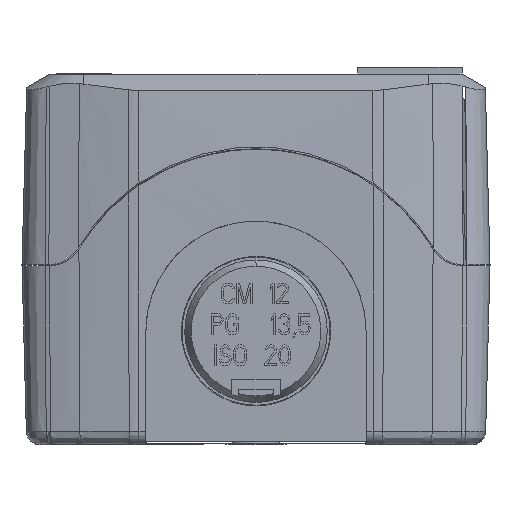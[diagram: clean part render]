
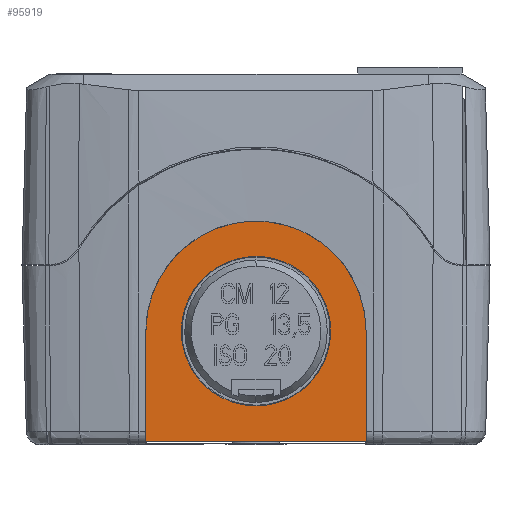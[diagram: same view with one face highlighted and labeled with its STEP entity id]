
A CAD part, front view. The second image highlights one B-rep face of the part: STEP entity #95919.
In plain terms, the highlighted planar face has unit normal (0, -1, -0.026).
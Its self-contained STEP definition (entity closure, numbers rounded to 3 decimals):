
#41331=DIRECTION('',(1.,0.,0.));
#41332=VECTOR('',#41331,0.111);
#41333=CARTESIAN_POINT('',(15.889,-94.268,-53.85));
#41334=LINE('',#41333,#41332);
#41847=DIRECTION('',(1.,0.,0.));
#41848=VECTOR('',#41847,0.111);
#41849=CARTESIAN_POINT('',(-16.,-94.268,-53.85));
#41850=LINE('',#41849,#41848);
#50500=DIRECTION('',(1.,0.,0.));
#50501=VECTOR('',#50500,6.889);
#50502=CARTESIAN_POINT('',(-15.889,-94.281,-53.35));
#50503=LINE('',#50502,#50501);
#50526=DIRECTION('',(1.,0.,0.));
#50527=VECTOR('',#50526,6.889);
#50528=CARTESIAN_POINT('',(9.,-94.281,-53.35));
#50529=LINE('',#50528,#50527);
#56601=CARTESIAN_POINT('',(-15.889,-94.281,-53.35));
#56602=CARTESIAN_POINT('',(-15.889,-94.277,
-53.517));
#56603=CARTESIAN_POINT('',(-15.889,-94.272,
-53.683));
#56604=CARTESIAN_POINT('',(-15.889,-94.268,-53.85));
#56606=CARTESIAN_POINT('',(-16.,-94.7,-37.356));
#56607=CARTESIAN_POINT('',(-16.,-94.728,-36.294));
#56608=CARTESIAN_POINT('',(-15.794,-94.782,
-34.215));
#56609=CARTESIAN_POINT('',(-14.878,-94.861,
-31.184));
#56610=CARTESIAN_POINT('',(-13.383,-94.935,
-28.395));
#56611=CARTESIAN_POINT('',(-11.4,-94.998,
-25.977));
#56612=CARTESIAN_POINT('',(-8.952,-95.051,
-23.963));
#56613=CARTESIAN_POINT('',(-6.16,-95.09,
-22.472));
#56614=CARTESIAN_POINT('',(-3.137,-95.114,
-21.556));
#56615=CARTESIAN_POINT('',(-0.003,-95.122,
-21.248));
#56616=CARTESIAN_POINT('',(3.127,-95.114,
-21.555));
#56617=CARTESIAN_POINT('',(6.139,-95.09,
-22.464));
#56618=CARTESIAN_POINT('',(8.92,-95.051,
-23.942));
#56619=CARTESIAN_POINT('',(11.367,-94.999,
-25.945));
#56620=CARTESIAN_POINT('',(13.359,-94.935,
-28.359));
#56621=CARTESIAN_POINT('',(14.867,-94.862,
-31.153));
#56622=CARTESIAN_POINT('',(15.792,-94.783,
-34.199));
#56623=CARTESIAN_POINT('',(16.,-94.728,-36.288));
#56624=CARTESIAN_POINT('',(16.,-94.7,-37.356));
#56626=DIRECTION('',(-0.002,-0.026,1.));
#56627=VECTOR('',#56626,0.5);
#56628=CARTESIAN_POINT('',(15.889,-94.268,-53.85));
#56629=LINE('',#56628,#56627);
#56630=DIRECTION('',(-1.,0.,0.));
#56631=VECTOR('',#56630,18.);
#56632=CARTESIAN_POINT('',(9.,-94.281,-53.35));
#56633=LINE('',#56632,#56631);
#56634=CARTESIAN_POINT('',(0.,-94.984,
-26.494));
#56635=CARTESIAN_POINT('',(-0.771,-94.984,
-26.494));
#56636=CARTESIAN_POINT('',(-2.274,-94.98,
-26.655));
#56637=CARTESIAN_POINT('',(-4.453,-94.962,
-27.362));
#56638=CARTESIAN_POINT('',(-6.433,-94.931,
-28.51));
#56639=CARTESIAN_POINT('',(-8.11,-94.892,
-30.018));
#56640=CARTESIAN_POINT('',(-9.459,-94.844,
-31.862));
#56641=CARTESIAN_POINT('',(-10.395,-94.789,
-33.953));
#56642=CARTESIAN_POINT('',(-10.874,-94.73,
-36.191));
#56643=CARTESIAN_POINT('',(-10.877,-94.671,
-38.476));
#56644=CARTESIAN_POINT('',(-10.406,-94.612,
-40.71));
#56645=CARTESIAN_POINT('',(-9.482,-94.557,
-42.797));
#56646=CARTESIAN_POINT('',(-8.143,-94.509,
-44.646));
#56647=CARTESIAN_POINT('',(-6.466,-94.469,
-46.167));
#56648=CARTESIAN_POINT('',(-4.477,-94.439,
-47.328));
#56649=CARTESIAN_POINT('',(-2.283,-94.42,
-48.043));
#56650=CARTESIAN_POINT('',(-0.774,-94.416,
-48.206));
#56651=CARTESIAN_POINT('',(0.,-94.416,
-48.206));
#56653=CARTESIAN_POINT('',(0.,-94.416,
-48.206));
#56654=CARTESIAN_POINT('',(0.771,-94.416,
-48.206));
#56655=CARTESIAN_POINT('',(2.274,-94.42,
-48.045));
#56656=CARTESIAN_POINT('',(4.453,-94.438,
-47.338));
#56657=CARTESIAN_POINT('',(6.433,-94.469,
-46.19));
#56658=CARTESIAN_POINT('',(8.11,-94.508,
-44.682));
#56659=CARTESIAN_POINT('',(9.459,-94.556,
-42.838));
#56660=CARTESIAN_POINT('',(10.395,-94.611,
-40.747));
#56661=CARTESIAN_POINT('',(10.874,-94.67,
-38.509));
#56662=CARTESIAN_POINT('',(10.877,-94.729,
-36.224));
#56663=CARTESIAN_POINT('',(10.406,-94.788,
-33.99));
#56664=CARTESIAN_POINT('',(9.482,-94.843,
-31.903));
#56665=CARTESIAN_POINT('',(8.143,-94.891,
-30.054));
#56666=CARTESIAN_POINT('',(6.466,-94.931,
-28.532));
#56667=CARTESIAN_POINT('',(4.477,-94.961,
-27.371));
#56668=CARTESIAN_POINT('',(2.283,-94.98,
-26.656));
#56669=CARTESIAN_POINT('',(0.774,-94.984,
-26.494));
#56670=CARTESIAN_POINT('',(0.,-94.984,
-26.494));
#60327=DIRECTION('',(0.,0.026,-1.));
#60328=VECTOR('',#60327,16.504);
#60329=CARTESIAN_POINT('',(-16.,-94.7,-37.352));
#60330=LINE('',#60329,#60328);
#60759=DIRECTION('',(0.,-0.026,1.));
#60760=VECTOR('',#60759,16.504);
#60761=CARTESIAN_POINT('',(16.,-94.268,-53.85));
#60762=LINE('',#60761,#60760);
#73021=CARTESIAN_POINT('',(15.889,-94.268,-53.85));
#73022=VERTEX_POINT('',#73021);
#73023=CARTESIAN_POINT('',(16.,-94.268,-53.85));
#73024=VERTEX_POINT('',#73023);
#73243=CARTESIAN_POINT('',(-16.,-94.268,-53.85));
#73244=VERTEX_POINT('',#73243);
#73245=CARTESIAN_POINT('',(-15.889,-94.268,-53.85));
#73246=VERTEX_POINT('',#73245);
#77084=CARTESIAN_POINT('',(-15.889,-94.281,-53.35));
#77085=VERTEX_POINT('',#77084);
#77086=CARTESIAN_POINT('',(-9.,-94.281,-53.35));
#77087=VERTEX_POINT('',#77086);
#77096=CARTESIAN_POINT('',(9.,-94.281,-53.35));
#77097=VERTEX_POINT('',#77096);
#77098=CARTESIAN_POINT('',(15.889,-94.281,-53.35));
#77099=VERTEX_POINT('',#77098);
#79884=CARTESIAN_POINT('',(-16.,-94.7,-37.352));
#79885=VERTEX_POINT('',#79884);
#79886=VERTEX_POINT('',#56624);
#79887=VERTEX_POINT('',#56634);
#79888=VERTEX_POINT('',#56651);
#95890=CARTESIAN_POINT('',(-18.738,-94.7,-37.35));
#95891=DIRECTION('',(0.,1.,0.026));
#95892=DIRECTION('',(-1.,0.,0.));
#95893=AXIS2_PLACEMENT_3D('',#95890,#95891,#95892);
#95894=PLANE('',#95893);
#95895=ORIENTED_EDGE('',*,*,#92505,.F.);
#95897=ORIENTED_EDGE('',*,*,#95896,.T.);
#95898=ORIENTED_EDGE('',*,*,#86256,.F.);
#95900=ORIENTED_EDGE('',*,*,#95899,.F.);
#95902=ORIENTED_EDGE('',*,*,#95901,.T.);
#95904=ORIENTED_EDGE('',*,*,#95903,.F.);
#95905=ORIENTED_EDGE('',*,*,#85982,.F.);
#95907=ORIENTED_EDGE('',*,*,#95906,.T.);
#95908=ORIENTED_EDGE('',*,*,#92517,.F.);
#95910=ORIENTED_EDGE('',*,*,#95909,.T.);
#95911=EDGE_LOOP('',(#95895,#95897,#95898,#95900,#95902,#95904,#95905,#95907,
#95908,#95910));
#95912=FACE_OUTER_BOUND('',#95911,.F.);
#95914=ORIENTED_EDGE('',*,*,#95913,.T.);
#95916=ORIENTED_EDGE('',*,*,#95915,.T.);
#95917=EDGE_LOOP('',(#95914,#95916));
#95918=FACE_BOUND('',#95917,.F.);
#95919=ADVANCED_FACE('',(#95912,#95918),#95894,.F.);
#56605=B_SPLINE_CURVE_WITH_KNOTS('',3,(#56601,#56602,#56603,#56604),
.UNSPECIFIED.,.F.,.F.,(4,4),(0.,1.),.UNSPECIFIED.);
#56625=B_SPLINE_CURVE_WITH_KNOTS('',3,(#56606,#56607,#56608,#56609,#56610,
#56611,#56612,#56613,#56614,#56615,#56616,#56617,#56618,#56619,#56620,#56621,
#56622,#56623,#56624),.UNSPECIFIED.,.F.,.F.,(4,1,1,1,1,1,1,1,1,1,1,1,1,1,1,1,4),
(0.,0.063,0.125,0.188,0.25,0.313,0.375,0.438,0.5,0.563,
0.625,0.688,0.75,0.813,0.875,0.938,1.),.UNSPECIFIED.);
#56652=B_SPLINE_CURVE_WITH_KNOTS('',3,(#56634,#56635,#56636,#56637,#56638,
#56639,#56640,#56641,#56642,#56643,#56644,#56645,#56646,#56647,#56648,#56649,
#56650,#56651),.UNSPECIFIED.,.F.,.F.,(4,1,1,1,1,1,1,1,1,1,1,1,1,1,1,4),(0.,
0.067,0.133,0.2,0.267,0.333,
0.4,0.467,0.533,0.6,0.667,
0.733,0.8,0.867,0.933,1.),
.UNSPECIFIED.);
#56671=B_SPLINE_CURVE_WITH_KNOTS('',3,(#56653,#56654,#56655,#56656,#56657,
#56658,#56659,#56660,#56661,#56662,#56663,#56664,#56665,#56666,#56667,#56668,
#56669,#56670),.UNSPECIFIED.,.F.,.F.,(4,1,1,1,1,1,1,1,1,1,1,1,1,1,1,4),(0.,
0.067,0.133,0.2,0.267,0.333,
0.4,0.467,0.533,0.6,0.667,
0.733,0.8,0.867,0.933,1.),
.UNSPECIFIED.);
#85982=EDGE_CURVE('',#73022,#73024,#41334,.T.);
#86256=EDGE_CURVE('',#73244,#73246,#41850,.T.);
#92505=EDGE_CURVE('',#77085,#77087,#50503,.T.);
#92517=EDGE_CURVE('',#77097,#77099,#50529,.T.);
#95896=EDGE_CURVE('',#77085,#73246,#56605,.T.);
#95899=EDGE_CURVE('',#79885,#73244,#60330,.T.);
#95901=EDGE_CURVE('',#79885,#79886,#56625,.T.);
#95903=EDGE_CURVE('',#73024,#79886,#60762,.T.);
#95906=EDGE_CURVE('',#73022,#77099,#56629,.T.);
#95909=EDGE_CURVE('',#77097,#77087,#56633,.T.);
#95913=EDGE_CURVE('',#79887,#79888,#56652,.T.);
#95915=EDGE_CURVE('',#79888,#79887,#56671,.T.);
